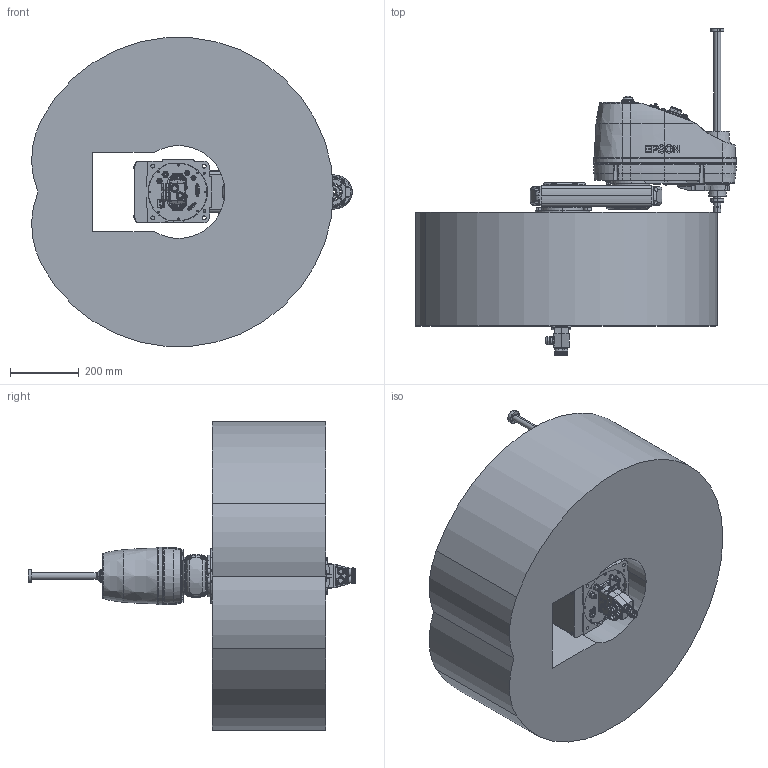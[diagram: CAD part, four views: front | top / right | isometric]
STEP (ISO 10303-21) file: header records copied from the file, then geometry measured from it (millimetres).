
FILE_DESCRIPTION (( 'STEP AP214' ), '1' );
FILE_NAME ('GX8-x453SB.STEP', '2025-03-06T23:56:05', ( '' ), ( '' ), 'SwSTEP 2.0', 'SolidWorks 2020', '' );
FILE_SCHEMA (( 'AUTOMOTIVE_DESIGN' ));
Length unit declared in the file: millimetre
Products named in the file (8): _B453SZA; GX8-x453SB; _Angle-B; _GX8-13-1-B_WS; _B452S_J2; _B452S_; _B452SBbasegx8; _Straight-B
Assembly tree (7 placements, depth 2):
  GX8-x453SB
    _B452SBbasegx8
    _B452S_
    _B452S_J2
    _B453SZA
    _Straight-B
    _Angle-B
    _GX8-13-1-B_WS
Bounding box: 931.38 x 951.85 x 897.23 mm (x, y, z)
Volume: 201020660.7 mm3; surface area: 3513331.6 mm2
Topology: 11 solids, 12 shells, 4418 faces, 10937 edges, 7033 vertices
Faces by surface type: plane 1805, cylinder 1717, cone 634, torus 205, bspline 45, sphere 12
Entity records: 162302 total; most frequent: CARTESIAN_POINT 38127, DIRECTION 22429, ORIENTED_EDGE 21726, EDGE_CURVE 10863, AXIS2_PLACEMENT_3D 8602, VERTEX_POINT 7033, LINE 5225, VECTOR 5225
